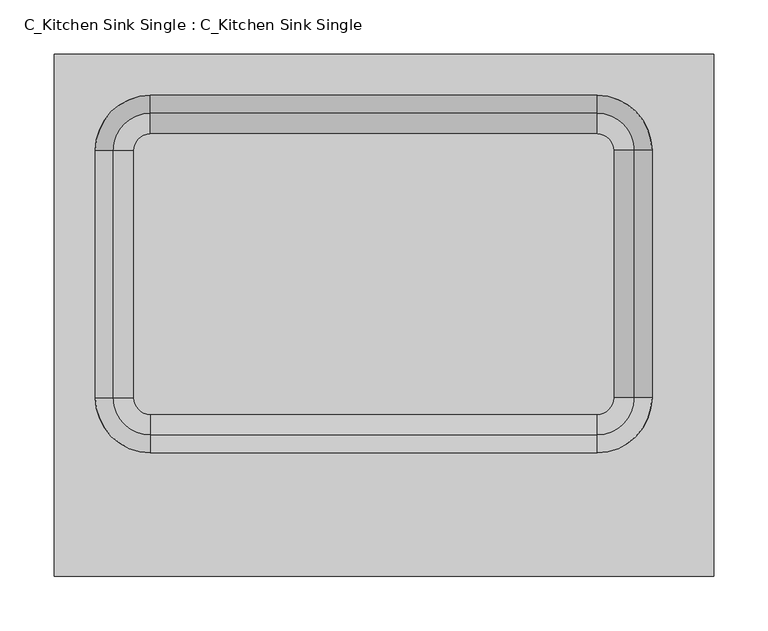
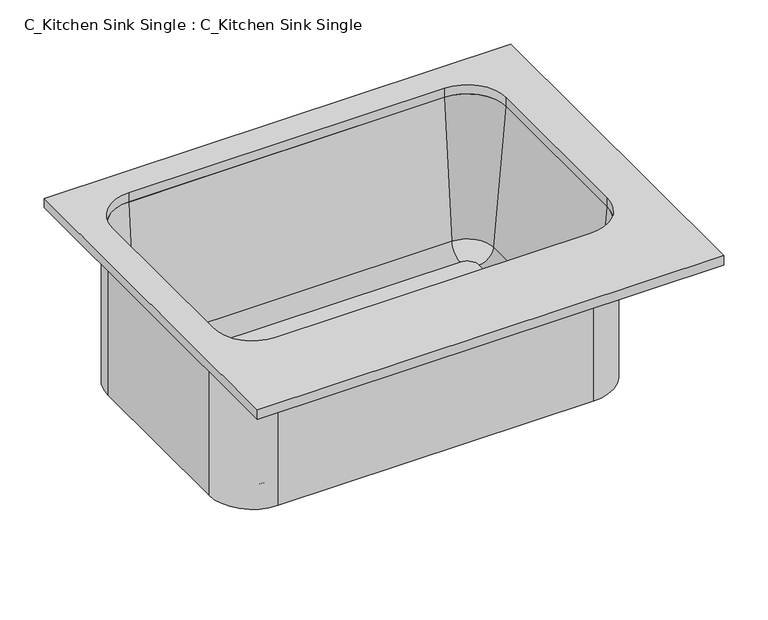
"""IFC4 building model written with IfcOpenShell, lengths in millimetres: flow terminal geometry, C_Kitchen Sink Single : C_Kitchen Sink Single."""

from ifc_helpers import new_model, si_unit, point, frame, frame_2d, origin, origin_with_axes, place, context, project, spatial, polyline, circle_curve, ellipse_curve, trimmed, segment, composite_curve, outline, extrude, source, transform, mapped, element, save
from ifc_brep_helpers import plane_surface, cylinder_surface, revolved_surface, advanced_brep


def c_kitchen_sink_single_c_kitchen_sink_single_6c047c32(model_context):
    return source(origin(), model_context, "Body", "SolidModel", [
        advanced_brep(
        [(-38.8723412, -78.5454011, -206.375), (-38.8723412, 150.0545989, -206.375), (-54.1607594, 165.3430171, -206.375), (-466.9107594, 165.3430171, -206.375), (-482.1991776, 150.0545989, -206.375), (-482.1991776, -78.5454011, -206.375), (-466.9107594, -93.8338193, -206.375), (-54.1607594, -93.8338193, -206.375), (-524.0607594, -78.5454011, -215.9), (-524.0607594, 150.0545989, -215.9), (-466.9107594, 207.2045989, -215.9), (-54.1607594, 207.2045989, -215.9), (2.9892406, 150.0545989, -215.9), (2.9892406, -78.5454011, -215.9), (-54.1607594, -135.6954011, -215.9), (-466.9107594, -135.6954011, -215.9), (2.9892406, -78.5454011, 0.0), (-54.1607594, -135.6954011, 0.0), (-54.1607594, -112.8113283, -188.9853169), (-19.8948322, -78.5454011, -188.9853169), (-54.1607594, -129.3454011, 0.0), (-3.3607594, -78.5454011, 0.0), (2.9892406, 150.0545989, 0.0), (-19.8948322, 150.0545989, -188.9853169), (-3.3607594, 150.0545989, 0.0), (-54.1607594, 207.2045989, 0.0), (-54.1607594, 184.3205261, -188.9853169), (-54.1607594, 200.8545989, 0.0), (-466.9107594, 207.2045989, 0.0), (-466.9107594, 184.3205261, -188.9853169), (-466.9107594, 200.8545989, 0.0), (-524.0607594, 150.0545989, 0.0), (-501.1766866, 150.0545989, -188.9853169), (-517.7107594, 150.0545989, 0.0), (-524.0607594, -78.5454011, 0.0), (-501.1766866, -78.5454011, -188.9853169), (-517.7107594, -78.5454011, 0.0), (-466.9107594, -135.6954011, 0.0), (-466.9107594, -112.8113283, -188.9853169), (-466.9107594, -129.3454011, 0.0)],
        [
            (0, 1),
            (1, 2, circle_curve(frame((-54.1607594, 150.0545989, -206.375), z_axis=(0.0, 0.0, 1.0), x_axis=(1.0, 0.0, 0.0)), 15.2884182)),
            (2, 3),
            (3, 4, circle_curve(frame((-466.9107594, 150.0545989, -206.375), z_axis=(0.0, 0.0, 1.0), x_axis=(0.0, 1.0, 0.0)), 15.2884182)),
            (4, 5),
            (5, 6, circle_curve(frame((-466.9107594, -78.5454011, -206.375), z_axis=(0.0, 0.0, 1.0), x_axis=(-1.0, 0.0, 0.0)), 15.2884182)),
            (6, 7),
            (7, 0, circle_curve(frame((-54.1607594, -78.5454011, -206.375), z_axis=(0.0, 0.0, 1.0), x_axis=(0.0, -1.0, 0.0)), 15.2884182)),
            (8, 9),
            (9, 10, circle_curve(frame((-466.9107594, 150.0545989, -215.9), z_axis=(0.0, 0.0, -1.0), x_axis=(0.0, 1.0, 0.0)), 57.15)),
            (10, 11),
            (11, 12, circle_curve(frame((-54.1607594, 150.0545989, -215.9), z_axis=(0.0, 0.0, -1.0), x_axis=(1.0, 0.0, 0.0)), 57.15)),
            (12, 13),
            (13, 14, circle_curve(frame((-54.1607594, -78.5454011, -215.9), z_axis=(0.0, 0.0, -1.0), x_axis=(0.0, -1.0, 0.0)), 57.15)),
            (14, 15),
            (15, 8, circle_curve(frame((-466.9107594, -78.5454011, -215.9), z_axis=(0.0, 0.0, -1.0), x_axis=(-1.0, 0.0, 0.0)), 57.15)),
            (13, 16),
            (16, 17, circle_curve(frame((-54.1607594, -78.5454011, 0.0), z_axis=(0.0, 0.0, -1.0), x_axis=(0.0, -1.0, 0.0)), 57.15)),
            (17, 14),
            (7, 18, circle_curve(frame((-54.1607594, -93.8338193, -187.325), z_axis=(-1.0, 0.0, 0.0), x_axis=(0.0, -1.0, 0.0)), 19.05)),
            (18, 19, circle_curve(frame((-54.1607594, -78.5454011, -188.9853169), z_axis=(0.0, 0.0, 1.0), x_axis=(0.0, -1.0, 0.0)), 34.2659272)),
            (19, 0, circle_curve(frame((-38.8723412, -78.5454011, -187.325), z_axis=(0.0, 1.0, 0.0), x_axis=(1.0, 0.0, 0.0)), 19.05)),
            (18, 20),
            (20, 21, circle_curve(frame((-54.1607594, -78.5454011, 0.0), z_axis=(0.0, 0.0, 1.0), x_axis=(0.0, -1.0, 0.0)), 50.8)),
            (21, 19),
            (16, 21),
            (20, 17),
            (12, 22),
            (22, 16),
            (19, 23),
            (23, 1, circle_curve(frame((-38.8723412, 150.0545989, -187.325), z_axis=(0.0, 1.0, 0.0), x_axis=(1.0, 0.0, 0.0)), 19.05)),
            (21, 24),
            (24, 23),
            (22, 24),
            (11, 25),
            (25, 22, circle_curve(frame((-54.1607594, 150.0545989, 0.0), z_axis=(0.0, 0.0, -1.0), x_axis=(1.0, 0.0, 0.0)), 57.15)),
            (23, 26, circle_curve(frame((-54.1607594, 150.0545989, -188.9853169), z_axis=(0.0, 0.0, 1.0), x_axis=(1.0, 0.0, 0.0)), 34.2659272)),
            (26, 2, circle_curve(frame((-54.1607594, 165.3430171, -187.325), z_axis=(-1.0, 0.0, 0.0), x_axis=(0.0, 1.0, 0.0)), 19.05)),
            (24, 27, circle_curve(frame((-54.1607594, 150.0545989, 0.0), z_axis=(0.0, 0.0, 1.0), x_axis=(1.0, 0.0, 0.0)), 50.8)),
            (27, 26),
            (25, 27),
            (10, 28),
            (28, 25),
            (26, 29),
            (29, 3, circle_curve(frame((-466.9107594, 165.3430171, -187.325), z_axis=(-1.0, 0.0, 0.0), x_axis=(0.0, 1.0, 0.0)), 19.05)),
            (27, 30),
            (30, 29),
            (28, 30),
            (9, 31),
            (31, 28, circle_curve(frame((-466.9107594, 150.0545989, 0.0), z_axis=(0.0, 0.0, -1.0), x_axis=(0.0, 1.0, 0.0)), 57.15)),
            (29, 32, circle_curve(frame((-466.9107594, 150.0545989, -188.9853169), z_axis=(0.0, 0.0, 1.0), x_axis=(0.0, 1.0, 0.0)), 34.2659272)),
            (32, 4, circle_curve(frame((-482.1991776, 150.0545989, -187.325), z_axis=(0.0, -1.0, 0.0), x_axis=(-1.0, 0.0, 0.0)), 19.05)),
            (30, 33, circle_curve(frame((-466.9107594, 150.0545989, 0.0), z_axis=(0.0, 0.0, 1.0), x_axis=(0.0, 1.0, 0.0)), 50.8)),
            (33, 32),
            (31, 33),
            (8, 34),
            (34, 31),
            (32, 35),
            (35, 5, circle_curve(frame((-482.1991776, -78.5454011, -187.325), z_axis=(0.0, -1.0, 0.0), x_axis=(-1.0, 0.0, 0.0)), 19.05)),
            (33, 36),
            (36, 35),
            (34, 36),
            (15, 37),
            (37, 34, circle_curve(frame((-466.9107594, -78.5454011, 0.0), z_axis=(0.0, 0.0, -1.0), x_axis=(-1.0, 0.0, 0.0)), 57.15)),
            (35, 38, circle_curve(frame((-466.9107594, -78.5454011, -188.9853169), z_axis=(0.0, 0.0, 1.0), x_axis=(-1.0, 0.0, 0.0)), 34.2659272)),
            (38, 6, circle_curve(frame((-466.9107594, -93.8338193, -187.325), z_axis=(1.0, 0.0, 0.0), x_axis=(0.0, -1.0, 0.0)), 19.05)),
            (36, 39, circle_curve(frame((-466.9107594, -78.5454011, 0.0), z_axis=(0.0, 0.0, 1.0), x_axis=(-1.0, 0.0, 0.0)), 50.8)),
            (39, 38),
            (37, 39),
            (17, 37),
            (38, 18),
            (39, 20),
        ],
        [
            plane_surface(frame((-466.9107594, -91.2454011, -206.375), z_axis=(0.0, 0.0, 1.0), x_axis=(-1.0, 0.0, 0.0))),
            plane_surface(frame((-466.9107594, -91.2454011, -215.9), z_axis=(0.0, 0.0, -1.0), x_axis=(1.0, 0.0, 0.0))),
            cylinder_surface(frame((-54.1607594, -78.5454011, 0.0), z_axis=(0.0, 0.0, -1.0), x_axis=(0.0, -1.0, 0.0)), 57.15),
            revolved_surface(trimmed(ellipse_curve(frame((-54.1607594, -93.8338193, -187.325), z_axis=(-1.0, 0.0, 0.0), x_axis=(0.0, -1.0, 0.0)), 19.05, 19.05), [point((-54.1607594, -93.8338193, -206.375))], [point((-54.1607594, -112.8113283, -188.9853169))], True, "CARTESIAN"), (-54.1607594, -78.5454011, 0.0), (0.0, 0.0, -1.0)),
            revolved_surface(polyline([(-54.1607594, -112.8113283, -188.9853169), (-54.1607594, -129.3454011, 0.0)]), (-54.1607594, -78.5454011, 0.0), (0.0, 0.0, -1.0)),
            plane_surface(frame((-54.1607594, -78.5454011, 0.0), z_axis=(0.0, 0.0, 1.0), x_axis=(0.0, -1.0, 0.0))),
            plane_surface(frame((2.9892406, -78.5454011, 0.0), z_axis=(1.0, 0.0, 0.0), x_axis=(0.0, 1.0, 0.0))),
            revolved_surface(polyline([(-19.8223412, 150.05459890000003, -187.325), (-19.8223412, -78.5454011, -187.325)]), (-38.8723412, -78.5454011, -187.325), (0.0, 1.0, 0.0)),
            plane_surface(frame((-19.8948322, -78.5454011, -188.9853169), z_axis=(-0.996194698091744, 0.0, 0.08715574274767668), x_axis=(0.0, 1.0, 0.0))),
            plane_surface(frame((-3.3607594, -78.5454011, 0.0), z_axis=(0.0, 0.0, 1.0), x_axis=(0.0, 1.0, 0.0))),
            cylinder_surface(frame((-54.1607594, 150.0545989, 0.0), z_axis=(0.0, 0.0, -1.0), x_axis=(1.0, 0.0, 0.0)), 57.15),
            revolved_surface(trimmed(ellipse_curve(frame((-38.8723412, 150.0545989, -187.325), z_axis=(0.0, -1.0, 0.0), x_axis=(1.0, 0.0, 0.0)), 19.05, 19.05), [point((-38.8723412, 150.0545989, -206.375))], [point((-19.8948322, 150.0545989, -188.9853169))], True, "CARTESIAN"), (-54.1607594, 150.0545989, 0.0), (0.0, 0.0, -1.0)),
            revolved_surface(polyline([(-19.8948322, 150.0545989, -188.9853169), (-3.3607594, 150.0545989, 0.0)]), (-54.1607594, 150.0545989, 0.0), (0.0, 0.0, -1.0)),
            plane_surface(frame((-54.1607594, 150.0545989, 0.0), z_axis=(0.0, 0.0, 1.0), x_axis=(1.0, 0.0, 0.0))),
            plane_surface(frame((-54.1607594, 207.2045989, 0.0), z_axis=(0.0, 1.0, 0.0), x_axis=(-1.0, 0.0, 0.0))),
            revolved_surface(polyline([(-466.9107594, 184.3930171, -187.325), (-54.1607594, 184.3930171, -187.325)]), (-54.1607594, 165.3430171, -187.325), (-1.0, 0.0, 0.0)),
            plane_surface(frame((-54.1607594, 184.3205261, -188.9853169), z_axis=(0.0, -0.996194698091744, 0.08715574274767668), x_axis=(-1.0, 0.0, 0.0))),
            plane_surface(frame((-54.1607594, 200.8545989, 0.0), z_axis=(0.0, 0.0, 1.0), x_axis=(-1.0, 0.0, 0.0))),
            cylinder_surface(frame((-466.9107594, 150.0545989, 0.0), z_axis=(0.0, 0.0, -1.0), x_axis=(0.0, 1.0, 0.0)), 57.15),
            revolved_surface(trimmed(ellipse_curve(frame((-466.9107594, 165.3430171, -187.325), z_axis=(1.0, 0.0, 0.0), x_axis=(0.0, 1.0, 0.0)), 19.05, 19.05), [point((-466.9107594, 165.3430171, -206.375))], [point((-466.9107594, 184.3205261, -188.9853169))], True, "CARTESIAN"), (-466.9107594, 150.0545989, 0.0), (0.0, 0.0, -1.0)),
            revolved_surface(polyline([(-466.9107594, 184.3205261, -188.9853169), (-466.9107594, 200.8545989, 0.0)]), (-466.9107594, 150.0545989, 0.0), (0.0, 0.0, -1.0)),
            plane_surface(frame((-466.9107594, 150.0545989, 0.0), z_axis=(0.0, 0.0, 1.0), x_axis=(0.0, 1.0, 0.0))),
            plane_surface(frame((-524.0607594, 150.0545989, 0.0), z_axis=(-1.0, 0.0, 0.0), x_axis=(0.0, -1.0, 0.0))),
            revolved_surface(polyline([(-501.2491776, -78.54540110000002, -187.325), (-501.2491776, 150.0545989, -187.325)]), (-482.1991776, 150.0545989, -187.325), (0.0, -1.0, 0.0)),
            plane_surface(frame((-501.1766866, 150.0545989, -188.9853169), z_axis=(0.996194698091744, 0.0, 0.08715574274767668), x_axis=(0.0, -1.0, 0.0))),
            plane_surface(frame((-517.7107594, 150.0545989, 0.0), z_axis=(0.0, 0.0, 1.0), x_axis=(0.0, -1.0, 0.0))),
            cylinder_surface(frame((-466.9107594, -78.5454011, 0.0), z_axis=(0.0, 0.0, -1.0), x_axis=(-1.0, 0.0, 0.0)), 57.15),
            revolved_surface(trimmed(ellipse_curve(frame((-482.1991776, -78.5454011, -187.325), z_axis=(0.0, 1.0, 0.0), x_axis=(-1.0, 0.0, 0.0)), 19.05, 19.05), [point((-482.1991776, -78.5454011, -206.375))], [point((-501.1766866, -78.5454011, -188.9853169))], True, "CARTESIAN"), (-466.9107594, -78.5454011, 0.0), (0.0, 0.0, -1.0)),
            revolved_surface(polyline([(-501.1766866, -78.5454011, -188.9853169), (-517.7107594, -78.5454011, 0.0)]), (-466.9107594, -78.5454011, 0.0), (0.0, 0.0, -1.0)),
            plane_surface(frame((-466.9107594, -78.5454011, 0.0), z_axis=(0.0, 0.0, 1.0), x_axis=(-1.0, 0.0, 0.0))),
            plane_surface(frame((-466.9107594, -135.6954011, 0.0), z_axis=(0.0, -1.0, 0.0), x_axis=(1.0, 0.0, 0.0))),
            revolved_surface(polyline([(-54.16075940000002, -112.8838193, -187.325), (-466.9107594, -112.8838193, -187.325)]), (-466.9107594, -93.8338193, -187.325), (1.0, 0.0, 0.0)),
            plane_surface(frame((-466.9107594, -112.8113283, -188.9853169), z_axis=(0.0, 0.996194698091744, 0.08715574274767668), x_axis=(1.0, 0.0, 0.0))),
            plane_surface(frame((-466.9107594, -129.3454011, 0.0), z_axis=(0.0, 0.0, 1.0), x_axis=(1.0, 0.0, 0.0))),
        ],
        [
            (0, [[1, 2, 3, 4, 5, 6, 7, 8]]),
            (1, [[9, 10, 11, 12, 13, 14, 15, 16]]),
            (2, [[17, 18, 19, -14]]),
            (3, [[20, 21, 22, -8]]),
            (4, [[23, 24, 25, -21]]),
            (5, [[26, -24, 27, -18]]),
            (6, [[-13, 28, 29, -17]]),
            (7, [[30, 31, -1, -22]]),
            (8, [[32, 33, -30, -25]]),
            (9, [[-29, 34, -32, -26]]),
            (10, [[-12, 35, 36, -28]]),
            (11, [[37, 38, -2, -31]]),
            (12, [[39, 40, -37, -33]]),
            (13, [[-36, 41, -39, -34]]),
            (14, [[-11, 42, 43, -35]]),
            (15, [[44, 45, -3, -38]]),
            (16, [[46, 47, -44, -40]]),
            (17, [[-43, 48, -46, -41]]),
            (18, [[-10, 49, 50, -42]]),
            (19, [[51, 52, -4, -45]]),
            (20, [[53, 54, -51, -47]]),
            (21, [[-50, 55, -53, -48]]),
            (22, [[-9, 56, 57, -49]]),
            (23, [[58, 59, -5, -52]]),
            (24, [[60, 61, -58, -54]]),
            (25, [[-57, 62, -60, -55]]),
            (26, [[-16, 63, 64, -56]]),
            (27, [[65, 66, -6, -59]]),
            (28, [[67, 68, -65, -61]]),
            (29, [[-64, 69, -67, -62]]),
            (30, [[70, -63, -15, -19]]),
            (31, [[-7, -66, 71, -20]]),
            (32, [[-71, -68, 72, -23]]),
            (33, [[-72, -69, -70, -27]]),
        ],
    ),
        extrude(outline(polyline([(53.7892406, -243.6454011), (-555.8107594, -243.6454011), (-555.8107594, 238.9545989), (53.7892406, 238.9545989), (53.7892406, -243.6454011)]), holes=[composite_curve([segment(trimmed(circle_curve(frame_2d((-54.1607594, -78.5454011)), 50.8), [point((-54.1607594, -129.3454011))], [point((-3.3607594, -78.5454011))], True, "CARTESIAN"), True, "CONTINUOUS"), segment(polyline([(-3.3607594, -78.5454011), (-3.3607594, 150.0545989)]), True, "CONTINUOUS"), segment(trimmed(circle_curve(frame_2d((-54.1607594, 150.0545989)), 50.8), [point((-3.3607594, 150.0545989))], [point((-54.1607594, 200.8545989))], True, "CARTESIAN"), True, "CONTINUOUS"), segment(polyline([(-54.1607594, 200.8545989), (-466.9107594, 200.8545989)]), True, "CONTINUOUS"), segment(trimmed(circle_curve(frame_2d((-466.9107594, 150.0545989)), 50.8), [point((-466.9107594, 200.8545989))], [point((-517.7107594, 150.0545989))], True, "CARTESIAN"), True, "CONTINUOUS"), segment(polyline([(-517.7107594, 150.0545989), (-517.7107594, -78.5454011)]), True, "CONTINUOUS"), segment(trimmed(circle_curve(frame_2d((-466.9107594, -78.5454011)), 50.8), [point((-517.7107594, -78.5454011))], [point((-466.9107594, -129.3454011))], True, "CARTESIAN"), True, "CONTINUOUS"), segment(polyline([(-466.9107594, -129.3454011), (-54.1607594, -129.3454011)]), True, "CONTINUOUS")], self_intersect=False)]), origin_with_axes(), (0.0, 0.0, 1.0), 12.7),
    ])


if __name__ == "__main__":
    model = new_model("IFC4")
    model_context = context("Model", 3, world=origin())
    ifc_project = project(units=[si_unit("LENGTHUNIT", "METRE", prefix="MILLI")], contexts=[model_context])
    site = spatial("IfcSite", under=ifc_project)
    building = spatial("IfcBuilding", under=site)
    placement = place(None, origin())
    c_kitchen_sink_single_c_kitchen_sink_single_shape = c_kitchen_sink_single_c_kitchen_sink_single_6c047c32(model_context)
    element("IfcFlowTerminal", 1, ObjectType="C_Kitchen Sink Single : C_Kitchen Sink Single", at=placement, inside=building, context=model_context, shape_type="MappedRepresentation", body=[
        mapped(c_kitchen_sink_single_c_kitchen_sink_single_shape, transform((0.0, 0.0, 0.0), x_axis=(1.0, 0.0, 0.0), y_axis=(0.0, 1.0, 0.0), z_axis=(0.0, 0.0, 1.0))),
    ])
    save(model, "model.ifc")
